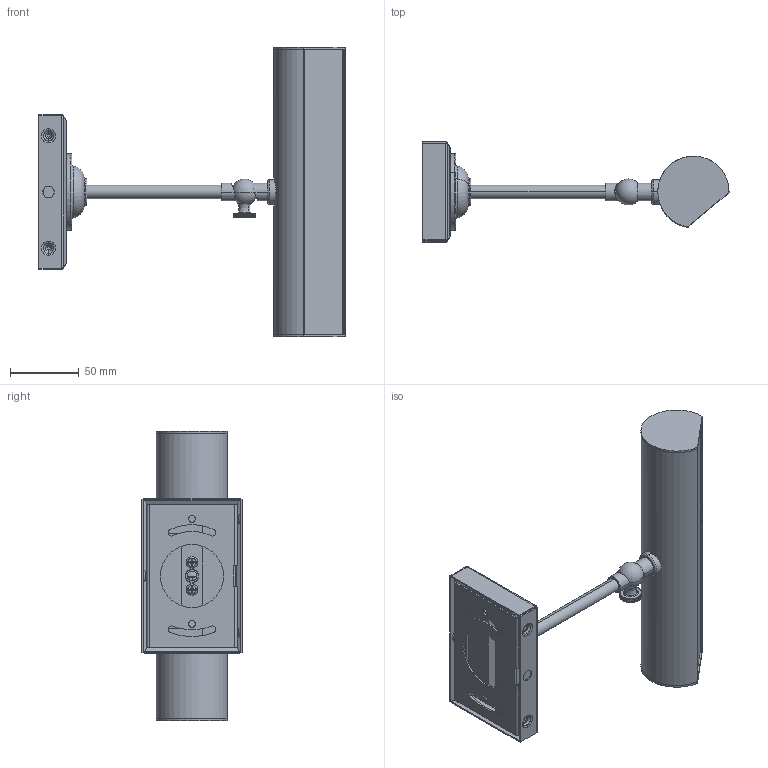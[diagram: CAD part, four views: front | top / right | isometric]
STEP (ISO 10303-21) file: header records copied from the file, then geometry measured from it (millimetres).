
FILE_DESCRIPTION((''),'2;1');
FILE_NAME('PIC18A-E0_ASM','2024-12-18T',('Hugo.Qiu'),(''),'PRO/ENGINEER BY PARAMETRIC TECHNOLOGY CORPORATION, 2009360','PRO/ENGINEER BY PARAMETRIC TECHNOLOGY CORPORATION, 2009360','');
FILE_SCHEMA(('AUTOMOTIVE_DESIGN_CC2 { 1 2 10303 214 -1 1 5 2 }'));
Length unit declared in the file: millimetre
Products named in the file (21): PIC18A-01; PIC18A-02; PIC18A-07; PIC18A-03; PIC18A-04; 7TDD120603BK; PIC18A-06; PIC18A-E3_ASM; PIC18A-12; PIC18A-08; PIC18A-09; PIC18A-E1_ASM; 8IN-3000K; 7MPF081501; 7MPM0904C1; PIC18A-10; PIC18A-13; 7MPF0507C1; 4EPD551436; 4EPD511279; PIC18A-E0_ASM
Assembly tree (22 placements, depth 3):
  PIC18A-E0_ASM
    PIC18A-01
    PIC18A-02
    PIC18A-07
    PIC18A-E3_ASM
      PIC18A-03
      PIC18A-04
      7TDD120603BK
      PIC18A-06
    PIC18A-12
    PIC18A-E1_ASM
      PIC18A-08
      PIC18A-09  x2
    8IN-3000K
    7MPF081501
    7MPM0904C1
    PIC18A-10
    PIC18A-13
    7MPF0507C1  x2
    4EPD551436
    4EPD511279
Bounding box: 223.39 x 73.06 x 211 mm (x, y, z)
Volume: 159283.3 mm3; surface area: 167411.4 mm2
Topology: 20 solids, 28 shells, 884 faces, 2230 edges, 1420 vertices
Faces by surface type: plane 454, cylinder 298, torus 48, cone 48, bspline 28, sphere 8
Entity records: 32991 total; most frequent: CARTESIAN_POINT 5870, DIRECTION 4543, ORIENTED_EDGE 4240, EDGE_CURVE 2134, PRESENTATION_STYLE_ASSIGNMENT 1889, STYLED_ITEM 1889, CURVE_STYLE 1868, AXIS2_PLACEMENT_3D 1610
